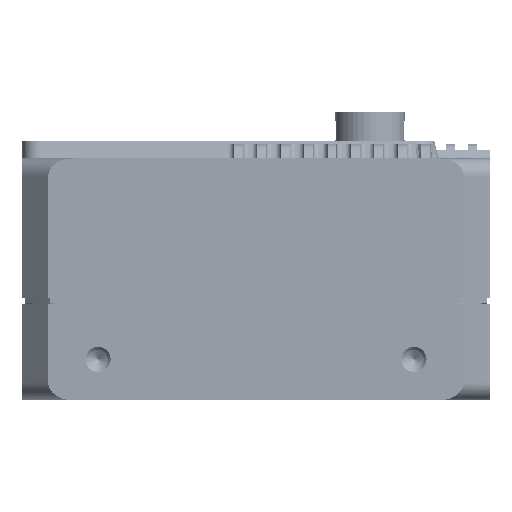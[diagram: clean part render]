
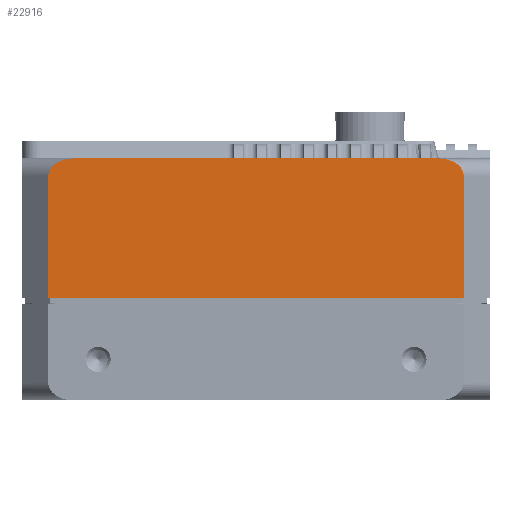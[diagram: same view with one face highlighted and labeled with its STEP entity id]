
A CAD part, left-side view. The second image highlights one B-rep face of the part: STEP entity #22916.
In plain terms, the highlighted planar face has unit normal (-1, 0, 0).
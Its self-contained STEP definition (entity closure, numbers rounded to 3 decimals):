
#16003=CARTESIAN_POINT('',(-40.,-31.257,-10.885));
#16004=CARTESIAN_POINT('',(-40.,-31.861,-10.885));
#16005=CARTESIAN_POINT('',(-40.,-32.9,-10.717));
#16006=CARTESIAN_POINT('',(-40.,-34.152,-10.158));
#16007=CARTESIAN_POINT('',(-40.,-34.952,-9.45));
#16008=CARTESIAN_POINT('',(-40.,-35.385,-8.675));
#16009=CARTESIAN_POINT('',(-40.,-35.5,-8.187));
#16010=CARTESIAN_POINT('',(-40.,-35.5,-7.885));
#16012=DIRECTION('',(0.,-1.,0.));
#16013=VECTOR('',#16012,62.515);
#16014=CARTESIAN_POINT('',(-40.,31.257,-10.885));
#16015=LINE('',#16014,#16013);
#16016=CARTESIAN_POINT('',(-40.,35.5,-7.885));
#16017=CARTESIAN_POINT('',(-40.,35.5,-8.187));
#16018=CARTESIAN_POINT('',(-40.,35.385,-8.675));
#16019=CARTESIAN_POINT('',(-40.,34.952,-9.45));
#16020=CARTESIAN_POINT('',(-40.,34.152,-10.158));
#16021=CARTESIAN_POINT('',(-40.,32.9,-10.717));
#16022=CARTESIAN_POINT('',(-40.,31.861,-10.885));
#16023=CARTESIAN_POINT('',(-40.,31.257,-10.885));
#16025=DIRECTION('',(0.,0.,-1.));
#16026=VECTOR('',#16025,20.77);
#16027=CARTESIAN_POINT('',(-40.,35.5,12.885));
#16028=LINE('',#16027,#16026);
#16029=DIRECTION('',(0.,-1.,0.));
#16030=VECTOR('',#16029,71.);
#16031=CARTESIAN_POINT('',(-40.,35.5,12.885));
#16032=LINE('',#16031,#16030);
#16033=DIRECTION('',(0.,0.,-1.));
#16034=VECTOR('',#16033,20.77);
#16035=CARTESIAN_POINT('',(-40.,-35.5,12.885));
#16036=LINE('',#16035,#16034);
#19093=CARTESIAN_POINT('',(-40.,35.5,12.885));
#19094=CARTESIAN_POINT('',(-40.,-35.5,12.885));
#19095=VERTEX_POINT('',#19093);
#19096=VERTEX_POINT('',#19094);
#20163=CARTESIAN_POINT('',(-40.,-31.257,-10.885));
#20164=VERTEX_POINT('',#20163);
#20165=VERTEX_POINT('',#16010);
#20171=VERTEX_POINT('',#16016);
#20172=VERTEX_POINT('',#16023);
#22899=CARTESIAN_POINT('',(-40.,40.,-13.885));
#22900=DIRECTION('',(-1.,0.,0.));
#22901=DIRECTION('',(0.,-1.,0.));
#22902=AXIS2_PLACEMENT_3D('',#22899,#22900,#22901);
#22903=PLANE('',#22902);
#22904=ORIENTED_EDGE('',*,*,#22892,.F.);
#22905=ORIENTED_EDGE('',*,*,#20766,.F.);
#22907=ORIENTED_EDGE('',*,*,#22906,.F.);
#22909=ORIENTED_EDGE('',*,*,#22908,.F.);
#22911=ORIENTED_EDGE('',*,*,#22910,.T.);
#22913=ORIENTED_EDGE('',*,*,#22912,.T.);
#22914=EDGE_LOOP('',(#22904,#22905,#22907,#22909,#22911,#22913));
#22915=FACE_OUTER_BOUND('',#22914,.F.);
#22916=ADVANCED_FACE('',(#22915),#22903,.T.);
#16011=B_SPLINE_CURVE_WITH_KNOTS('',3,(#16003,#16004,#16005,#16006,#16007,
#16008,#16009,#16010),.UNSPECIFIED.,.F.,.F.,(4,1,1,1,1,4),(0.,0.25,0.5,
0.75,0.875,1.),.UNSPECIFIED.);
#16024=B_SPLINE_CURVE_WITH_KNOTS('',3,(#16016,#16017,#16018,#16019,#16020,
#16021,#16022,#16023),.UNSPECIFIED.,.F.,.F.,(4,1,1,1,1,4),(0.,0.125,0.25,
0.5,0.75,1.),.UNSPECIFIED.);
#20766=EDGE_CURVE('',#20172,#20164,#16015,.T.);
#22892=EDGE_CURVE('',#20164,#20165,#16011,.T.);
#22906=EDGE_CURVE('',#20171,#20172,#16024,.T.);
#22908=EDGE_CURVE('',#19095,#20171,#16028,.T.);
#22910=EDGE_CURVE('',#19095,#19096,#16032,.T.);
#22912=EDGE_CURVE('',#19096,#20165,#16036,.T.);
